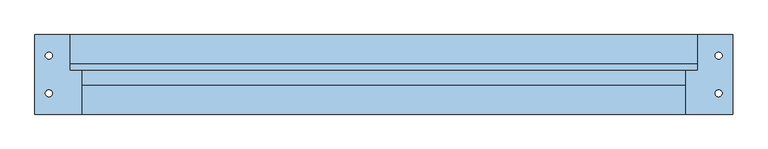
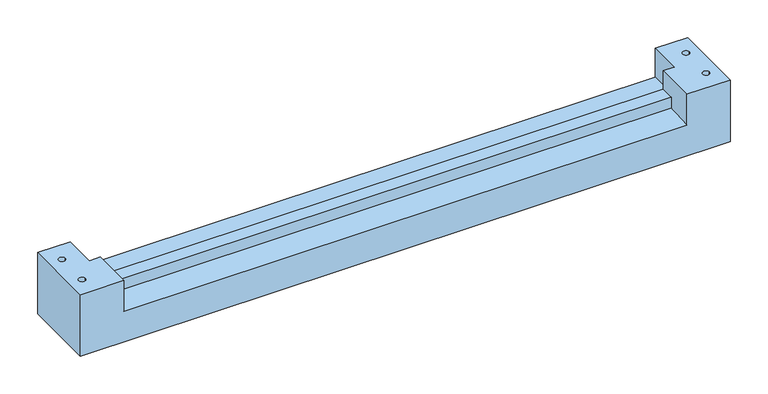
"""IFC4 building model written with IfcOpenShell, lengths in millimetres: window geometry, 30_NS_DA_51-57 : DA-51_neut30."""

from ifc_helpers import new_model, si_unit, frame, origin, place, context, project, spatial, polyline, circle_curve, source, transform, mapped, element, save
from ifc_brep_helpers import plane_surface, revolved_surface, advanced_brep


def window_53e58c0d(model_context):
    return source(origin(), model_context, "Body", "AdvancedBrep", [
        advanced_brep(
        [(0.0, -114.0, 0.0), (0.0, 0.0, 0.0), (1000.0, 0.0, 0.0), (1000.0, -114.0, 0.0), (15.0, -84.0, 0.0), (25.0, -84.0, 0.0), (975.0, -30.0, 0.0), (985.0, -30.0, 0.0), (975.0, -84.0, 0.0), (985.0, -84.0, 0.0), (15.0, -30.0, 0.0), (25.0, -30.0, 0.0), (50.0, 0.0, 100.0), (0.0, 0.0, 100.0), (0.0, -114.0, 100.0), (67.0, -114.0, 100.0), (67.0, -51.0, 100.0), (50.0, -51.0, 100.0), (25.0, -84.0, 100.0), (15.0, -84.0, 100.0), (25.0, -30.0, 100.0), (15.0, -30.0, 100.0), (1000.0, 0.0, 100.0), (1000.0, -114.0, 100.0), (67.0, -72.0, 52.0831202), (67.0, -114.0, 50.2493606), (933.0, -114.0, 50.2493606), (933.0, -72.0, 52.0831202), (67.0, -72.0, 70.0), (933.0, -72.0, 70.0), (50.0, -41.0, 48.0), (50.0, -51.0, 48.0), (950.0, -51.0, 48.0), (950.0, -41.0, 48.0), (50.0, -41.0, 53.0), (950.0, -41.0, 53.0), (50.0, 0.0, 53.0), (950.0, 0.0, 53.0), (67.0, -51.0, 70.0), (933.0, -51.0, 70.0), (933.0, -51.0, 100.0), (950.0, -51.0, 100.0), (933.0, -114.0, 100.0), (950.0, 0.0, 100.0), (975.0, -30.0, 100.0), (985.0, -30.0, 100.0), (975.0, -84.0, 100.0), (985.0, -84.0, 100.0)],
        [
            (0, 1),
            (1, 2),
            (2, 3),
            (3, 0),
            (4, 5, circle_curve(frame((20.0, -84.0, 0.0), z_axis=(0.0, 0.0, 1.0), x_axis=(1.0, 0.0, 0.0)), 5.0)),
            (5, 4, circle_curve(frame((20.0, -84.0, 0.0), z_axis=(0.0, 0.0, 1.0), x_axis=(1.0, 0.0, 0.0)), 5.0)),
            (6, 7, circle_curve(frame((980.0, -30.0, 0.0), z_axis=(0.0, 0.0, 1.0), x_axis=(1.0, 0.0, 0.0)), 5.0)),
            (7, 6, circle_curve(frame((980.0, -30.0, 0.0), z_axis=(0.0, 0.0, 1.0), x_axis=(1.0, 0.0, 0.0)), 5.0)),
            (8, 9, circle_curve(frame((980.0, -84.0, 0.0), z_axis=(0.0, 0.0, 1.0), x_axis=(1.0, 0.0, 0.0)), 5.0)),
            (9, 8, circle_curve(frame((980.0, -84.0, 0.0), z_axis=(0.0, 0.0, 1.0), x_axis=(1.0, 0.0, 0.0)), 5.0)),
            (10, 11, circle_curve(frame((20.0, -30.0, 0.0), z_axis=(0.0, 0.0, 1.0), x_axis=(1.0, 0.0, 0.0)), 5.0)),
            (11, 10, circle_curve(frame((20.0, -30.0, 0.0), z_axis=(0.0, 0.0, 1.0), x_axis=(1.0, 0.0, 0.0)), 5.0)),
            (12, 13),
            (13, 14),
            (14, 15),
            (15, 16),
            (16, 17),
            (17, 12),
            (18, 19, circle_curve(frame((20.0, -84.0, 100.0), z_axis=(0.0, 0.0, -1.0), x_axis=(1.0, 0.0, 0.0)), 5.0)),
            (19, 18, circle_curve(frame((20.0, -84.0, 100.0), z_axis=(0.0, 0.0, -1.0), x_axis=(1.0, 0.0, 0.0)), 5.0)),
            (20, 21, circle_curve(frame((20.0, -30.0, 100.0), z_axis=(0.0, 0.0, -1.0), x_axis=(1.0, 0.0, 0.0)), 5.0)),
            (21, 20, circle_curve(frame((20.0, -30.0, 100.0), z_axis=(0.0, 0.0, -1.0), x_axis=(1.0, 0.0, 0.0)), 5.0)),
            (2, 22),
            (22, 23),
            (23, 3),
            (24, 25),
            (25, 26),
            (26, 27),
            (27, 24),
            (28, 24),
            (27, 29),
            (29, 28),
            (30, 31),
            (31, 32),
            (32, 33),
            (33, 30),
            (34, 30),
            (33, 35),
            (35, 34),
            (36, 34),
            (35, 37),
            (37, 36),
            (17, 31),
            (36, 12),
            (16, 38),
            (38, 39),
            (39, 40),
            (40, 41),
            (41, 32),
            (15, 25),
            (28, 38),
            (14, 0),
            (23, 42),
            (42, 26),
            (13, 1),
            (37, 43),
            (43, 22),
            (42, 40),
            (39, 29),
            (41, 43),
            (4, 19),
            (18, 5),
            (6, 44),
            (44, 45, circle_curve(frame((980.0, -30.0, 100.0), z_axis=(0.0, 0.0, 1.0), x_axis=(1.0, 0.0, 0.0)), 5.0)),
            (45, 7),
            (45, 44, circle_curve(frame((980.0, -30.0, 100.0), z_axis=(0.0, 0.0, 1.0), x_axis=(1.0, 0.0, 0.0)), 5.0)),
            (8, 46),
            (46, 47, circle_curve(frame((980.0, -84.0, 100.0), z_axis=(0.0, 0.0, 1.0), x_axis=(1.0, 0.0, 0.0)), 5.0)),
            (47, 9),
            (47, 46, circle_curve(frame((980.0, -84.0, 100.0), z_axis=(0.0, 0.0, 1.0), x_axis=(1.0, 0.0, 0.0)), 5.0)),
            (10, 21),
            (20, 11),
        ],
        [
            plane_surface(frame((0.0, 0.0, 0.0), z_axis=(0.0, 0.0, -1.0), x_axis=(1.0, 0.0, 0.0))),
            plane_surface(frame((0.0, 0.0, 100.0), z_axis=(0.0, 0.0, 1.0), x_axis=(1.0, 0.0, 0.0))),
            plane_surface(frame((1000.0, 0.0, 0.0), z_axis=(1.0, 0.0, 0.0), x_axis=(0.0, 0.0, 1.0))),
            plane_surface(frame((0.0, -114.0, 50.2493606), z_axis=(0.0, -0.04361938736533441, 0.9990482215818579), x_axis=(1.0, 0.0, 0.0))),
            plane_surface(frame((0.0, -72.0, 52.0831202), z_axis=(0.0, -1.0, 0.0), x_axis=(1.0, 0.0, 0.0))),
            plane_surface(frame((0.0, -51.0, 48.0), z_axis=(0.0, 0.0, 1.0), x_axis=(1.0, 0.0, 0.0))),
            plane_surface(frame((0.0, -41.0, 48.0), z_axis=(0.0, -1.0, 0.0), x_axis=(1.0, 0.0, 0.0))),
            plane_surface(frame((0.0, -41.0, 53.0), z_axis=(0.0, 0.0, 1.0), x_axis=(1.0, 0.0, 0.0))),
            plane_surface(frame((50.0, 0.0, 0.0), z_axis=(1.0, 0.0, 0.0), x_axis=(0.0, 0.0, 1.0))),
            plane_surface(frame((50.0, -51.0, 0.0), z_axis=(0.0, 1.0, 0.0), x_axis=(0.0, 0.0, 1.0))),
            plane_surface(frame((67.0, -51.0, 0.0), z_axis=(1.0, 0.0, 0.0), x_axis=(0.0, 0.0, 1.0))),
            plane_surface(frame((67.0, -114.0, 0.0), z_axis=(0.0, -1.0, 0.0), x_axis=(0.0, 0.0, 1.0))),
            plane_surface(frame((0.0, -114.0, 0.0), z_axis=(-1.0, 0.0, 0.0), x_axis=(0.0, 0.0, 1.0))),
            plane_surface(frame((0.0, 0.0, 0.0), z_axis=(0.0, 1.0, 0.0), x_axis=(0.0, 0.0, 1.0))),
            plane_surface(frame((933.0, -114.0, 0.0), z_axis=(-1.0, 0.0, 0.0), x_axis=(0.0, 0.0, 1.0))),
            plane_surface(frame((950.0, -51.0, 0.0), z_axis=(-1.0, 0.0, 0.0), x_axis=(0.0, 0.0, 1.0))),
            revolved_surface(polyline([(25.0, -84.0, 0.0), (25.0, -84.0, 100.0)]), (20.0, -84.0, 0.0), (0.0, 0.0, -1.0)),
            revolved_surface(polyline([(985.0, -30.0, 0.0), (985.0, -30.0, 100.0)]), (980.0, -30.0, 0.0), (0.0, 0.0, -1.0)),
            revolved_surface(polyline([(985.0, -84.0, 0.0), (985.0, -84.0, 100.0)]), (980.0, -84.0, 0.0), (0.0, 0.0, -1.0)),
            revolved_surface(polyline([(25.0, -30.0, 0.0), (25.0, -30.0, 100.0)]), (20.0, -30.0, 0.0), (0.0, 0.0, -1.0)),
            plane_surface(frame((1000.0, 0.0, 100.0), z_axis=(0.0, 0.0, 1.0), x_axis=(1.0, 0.0, 0.0))),
            plane_surface(frame((0.0, -72.0, 70.0), z_axis=(0.0, 0.0, 1.0), x_axis=(1.0, 0.0, 0.0))),
        ],
        [
            (0, [[1, 2, 3, 4], [5, 6], [7, 8], [9, 10], [11, 12]]),
            (1, [[13, 14, 15, 16, 17, 18], [19, 20], [21, 22]]),
            (2, [[-3, 23, 24, 25]]),
            (3, [[26, 27, 28, 29]]),
            (4, [[30, -29, 31, 32]]),
            (5, [[33, 34, 35, 36]]),
            (6, [[37, -36, 38, 39]]),
            (7, [[40, -39, 41, 42]]),
            (8, [[-18, 43, -33, -37, -40, 44]]),
            (9, [[-17, 45, 46, 47, 48, 49, -34, -43]]),
            (10, [[-16, 50, -26, -30, 51, -45]]),
            (11, [[-15, 52, -4, -25, 53, 54, -27, -50]]),
            (12, [[-1, -52, -14, 55]]),
            (13, [[-13, -44, -42, 56, 57, -23, -2, -55]]),
            (14, [[58, -47, 59, -31, -28, -54]]),
            (15, [[60, -56, -41, -38, -35, -49]]),
            (16, [[61, -19, 62, -5]]),
            (16, [[-61, -6, -62, -20]]),
            (17, [[63, 64, 65, -7]]),
            (17, [[-63, -8, -65, 66]]),
            (18, [[67, 68, 69, -9]]),
            (18, [[-67, -10, -69, 70]]),
            (19, [[71, -21, 72, -11]]),
            (19, [[-71, -12, -72, -22]]),
            (20, [[-60, -48, -58, -53, -24, -57], [-64, -66], [-68, -70]]),
            (21, [[-51, -32, -59, -46]]),
        ],
    ),
    ])


if __name__ == "__main__":
    model = new_model("IFC4")
    model_context = context("Model", 3, world=origin())
    ifc_project = project(units=[si_unit("LENGTHUNIT", "METRE", prefix="MILLI")], contexts=[model_context])
    site = spatial("IfcSite", under=ifc_project)
    building = spatial("IfcBuilding", under=site)
    placement = place(None, origin())
    window_shape = window_53e58c0d(model_context)
    element("IfcWindow", 1, ObjectType="30_NS_DA_51-57 : DA-51_neut30", at=placement, inside=building, context=model_context, shape_type="MappedRepresentation", body=[
        mapped(window_shape, transform((0.0, 0.0, 0.0), x_axis=(1.0, 0.0, 0.0), y_axis=(0.0, 1.0, 0.0), z_axis=(0.0, 0.0, 1.0))),
    ])
    save(model, "model.ifc")
